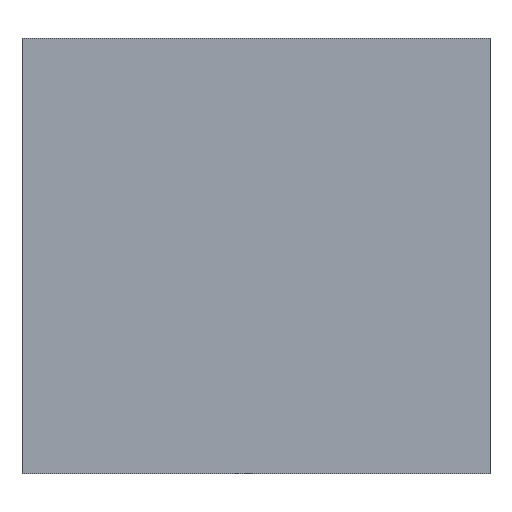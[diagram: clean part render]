
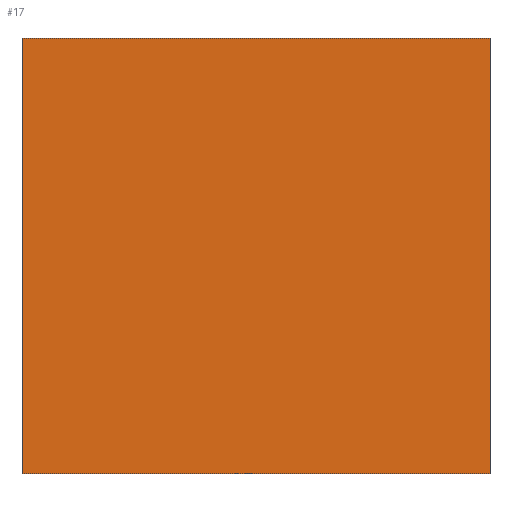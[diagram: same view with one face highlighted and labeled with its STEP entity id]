
A CAD part, left-side view. The second image highlights one B-rep face of the part: STEP entity #17.
In plain terms, the highlighted planar face has unit normal (-1, 0, 0).
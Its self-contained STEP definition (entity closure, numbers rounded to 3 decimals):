
#17 = ADVANCED_FACE('',(#18),#32,.F.);
#18 = FACE_BOUND('',#19,.F.);
#19 = EDGE_LOOP('',(#20,#55,#83,#111));
#20 = ORIENTED_EDGE('',*,*,#21,.F.);
#21 = EDGE_CURVE('',#22,#24,#26,.T.);
#22 = VERTEX_POINT('',#23);
#23 = CARTESIAN_POINT('',(-307.,0.,20.));
#24 = VERTEX_POINT('',#25);
#25 = CARTESIAN_POINT('',(-307.,0.,206.));
#26 = SURFACE_CURVE('',#27,(#31,#43),.PCURVE_S1.);
#27 = LINE('',#28,#29);
#28 = CARTESIAN_POINT('',(-307.,0.,20.));
#29 = VECTOR('',#30,1.);
#30 = DIRECTION('',(0.,0.,1.));
#31 = PCURVE('',#32,#37);
#32 = PLANE('',#33);
#33 = AXIS2_PLACEMENT_3D('',#34,#35,#36);
#34 = CARTESIAN_POINT('',(-307.,0.,20.));
#35 = DIRECTION('',(1.,0.,0.));
#36 = DIRECTION('',(0.,0.,1.));
#37 = DEFINITIONAL_REPRESENTATION('',(#38),#42);
#38 = LINE('',#39,#40);
#39 = CARTESIAN_POINT('',(0.,0.));
#40 = VECTOR('',#41,1.);
#41 = DIRECTION('',(1.,0.));
#42 = ( GEOMETRIC_REPRESENTATION_CONTEXT(2) 
PARAMETRIC_REPRESENTATION_CONTEXT() REPRESENTATION_CONTEXT('2D SPACE',''
  ) );
#43 = PCURVE('',#44,#49);
#44 = PLANE('',#45);
#45 = AXIS2_PLACEMENT_3D('',#46,#47,#48);
#46 = CARTESIAN_POINT('',(-307.,0.,20.));
#47 = DIRECTION('',(0.,1.,0.));
#48 = DIRECTION('',(0.,0.,1.));
#49 = DEFINITIONAL_REPRESENTATION('',(#50),#54);
#50 = LINE('',#51,#52);
#51 = CARTESIAN_POINT('',(0.,0.));
#52 = VECTOR('',#53,1.);
#53 = DIRECTION('',(1.,0.));
#54 = ( GEOMETRIC_REPRESENTATION_CONTEXT(2) 
PARAMETRIC_REPRESENTATION_CONTEXT() REPRESENTATION_CONTEXT('2D SPACE',''
  ) );
#55 = ORIENTED_EDGE('',*,*,#56,.T.);
#56 = EDGE_CURVE('',#22,#57,#59,.T.);
#57 = VERTEX_POINT('',#58);
#58 = CARTESIAN_POINT('',(-307.,200.,20.));
#59 = SURFACE_CURVE('',#60,(#64,#71),.PCURVE_S1.);
#60 = LINE('',#61,#62);
#61 = CARTESIAN_POINT('',(-307.,0.,20.));
#62 = VECTOR('',#63,1.);
#63 = DIRECTION('',(0.,1.,0.));
#64 = PCURVE('',#32,#65);
#65 = DEFINITIONAL_REPRESENTATION('',(#66),#70);
#66 = LINE('',#67,#68);
#67 = CARTESIAN_POINT('',(0.,0.));
#68 = VECTOR('',#69,1.);
#69 = DIRECTION('',(0.,-1.));
#70 = ( GEOMETRIC_REPRESENTATION_CONTEXT(2) 
PARAMETRIC_REPRESENTATION_CONTEXT() REPRESENTATION_CONTEXT('2D SPACE',''
  ) );
#71 = PCURVE('',#72,#77);
#72 = PLANE('',#73);
#73 = AXIS2_PLACEMENT_3D('',#74,#75,#76);
#74 = CARTESIAN_POINT('',(-307.,0.,20.));
#75 = DIRECTION('',(0.,0.,1.));
#76 = DIRECTION('',(1.,0.,0.));
#77 = DEFINITIONAL_REPRESENTATION('',(#78),#82);
#78 = LINE('',#79,#80);
#79 = CARTESIAN_POINT('',(0.,0.));
#80 = VECTOR('',#81,1.);
#81 = DIRECTION('',(0.,1.));
#82 = ( GEOMETRIC_REPRESENTATION_CONTEXT(2) 
PARAMETRIC_REPRESENTATION_CONTEXT() REPRESENTATION_CONTEXT('2D SPACE',''
  ) );
#83 = ORIENTED_EDGE('',*,*,#84,.T.);
#84 = EDGE_CURVE('',#57,#85,#87,.T.);
#85 = VERTEX_POINT('',#86);
#86 = CARTESIAN_POINT('',(-307.,200.,206.));
#87 = SURFACE_CURVE('',#88,(#92,#99),.PCURVE_S1.);
#88 = LINE('',#89,#90);
#89 = CARTESIAN_POINT('',(-307.,200.,20.));
#90 = VECTOR('',#91,1.);
#91 = DIRECTION('',(0.,0.,1.));
#92 = PCURVE('',#32,#93);
#93 = DEFINITIONAL_REPRESENTATION('',(#94),#98);
#94 = LINE('',#95,#96);
#95 = CARTESIAN_POINT('',(0.,-200.));
#96 = VECTOR('',#97,1.);
#97 = DIRECTION('',(1.,0.));
#98 = ( GEOMETRIC_REPRESENTATION_CONTEXT(2) 
PARAMETRIC_REPRESENTATION_CONTEXT() REPRESENTATION_CONTEXT('2D SPACE',''
  ) );
#99 = PCURVE('',#100,#105);
#100 = PLANE('',#101);
#101 = AXIS2_PLACEMENT_3D('',#102,#103,#104);
#102 = CARTESIAN_POINT('',(-307.,200.,20.));
#103 = DIRECTION('',(0.,1.,0.));
#104 = DIRECTION('',(0.,0.,1.));
#105 = DEFINITIONAL_REPRESENTATION('',(#106),#110);
#106 = LINE('',#107,#108);
#107 = CARTESIAN_POINT('',(0.,0.));
#108 = VECTOR('',#109,1.);
#109 = DIRECTION('',(1.,0.));
#110 = ( GEOMETRIC_REPRESENTATION_CONTEXT(2) 
PARAMETRIC_REPRESENTATION_CONTEXT() REPRESENTATION_CONTEXT('2D SPACE',''
  ) );
#111 = ORIENTED_EDGE('',*,*,#112,.F.);
#112 = EDGE_CURVE('',#24,#85,#113,.T.);
#113 = SURFACE_CURVE('',#114,(#118,#125),.PCURVE_S1.);
#114 = LINE('',#115,#116);
#115 = CARTESIAN_POINT('',(-307.,0.,206.));
#116 = VECTOR('',#117,1.);
#117 = DIRECTION('',(0.,1.,0.));
#118 = PCURVE('',#32,#119);
#119 = DEFINITIONAL_REPRESENTATION('',(#120),#124);
#120 = LINE('',#121,#122);
#121 = CARTESIAN_POINT('',(186.,0.));
#122 = VECTOR('',#123,1.);
#123 = DIRECTION('',(0.,-1.));
#124 = ( GEOMETRIC_REPRESENTATION_CONTEXT(2) 
PARAMETRIC_REPRESENTATION_CONTEXT() REPRESENTATION_CONTEXT('2D SPACE',''
  ) );
#125 = PCURVE('',#126,#131);
#126 = PLANE('',#127);
#127 = AXIS2_PLACEMENT_3D('',#128,#129,#130);
#128 = CARTESIAN_POINT('',(-307.,0.,206.));
#129 = DIRECTION('',(0.,0.,1.));
#130 = DIRECTION('',(1.,0.,0.));
#131 = DEFINITIONAL_REPRESENTATION('',(#132),#136);
#132 = LINE('',#133,#134);
#133 = CARTESIAN_POINT('',(0.,0.));
#134 = VECTOR('',#135,1.);
#135 = DIRECTION('',(0.,1.));
#136 = ( GEOMETRIC_REPRESENTATION_CONTEXT(2) 
PARAMETRIC_REPRESENTATION_CONTEXT() REPRESENTATION_CONTEXT('2D SPACE',''
  ) );
